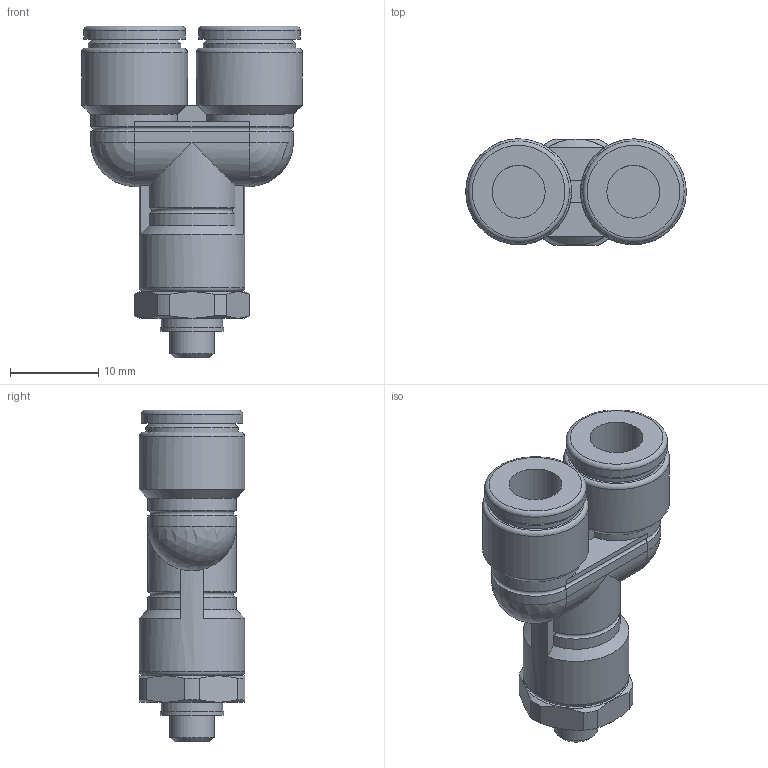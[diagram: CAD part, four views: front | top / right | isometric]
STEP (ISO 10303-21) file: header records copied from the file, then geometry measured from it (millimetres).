
FILE_DESCRIPTION(/* description */ (''),/* implementation_level */ '2;1');
FILE_NAME(/* name */ 'E:\2013年度版　3D-DATA\【02】 TOUCH CONNECTOR FIVE SUS\[04] MALE BRANCH Y\[04] FS6-M5MY FS6-M5MYW.stp',/* time_stamp */ '2013-08-06T16:57:38+09:00',/* author */ ('takahashi-pc2'),/* organization */ (''),/* preprocessor_version */ 'ST-DEVELOPER v15.2',/* originating_system */ 'Autodesk Inventor 2014',/* authorisation */ '');
FILE_SCHEMA (('AUTOMOTIVE_DESIGN { 1 0 10303 214 3 1 1 }'));
Length unit declared in the file: millimetre
Products named in the file (1): [04] FS6-M5MY FS6-M5MYW
Bounding box: 25 x 12 x 37.6 mm (x, y, z)
Volume: 4561.3 mm3; surface area: 2915.2 mm2
Topology: 1 solids, 1 shells, 92 faces, 206 edges, 122 vertices
Faces by surface type: plane 32, cylinder 30, cone 19, torus 9, sphere 2
Full cylindrical faces by diameter (mm): 5 x1, 6 x2, 7 x1, 7.2 x1, 10.5 x2, 11.5 x2, 12 x3
Entity records: 2437 total; most frequent: CARTESIAN_POINT 533, DIRECTION 414, ORIENTED_EDGE 358, AXIS2_PLACEMENT_3D 180, EDGE_CURVE 179, EDGE_LOOP 122, VERTEX_POINT 119, ADVANCED_FACE 92
